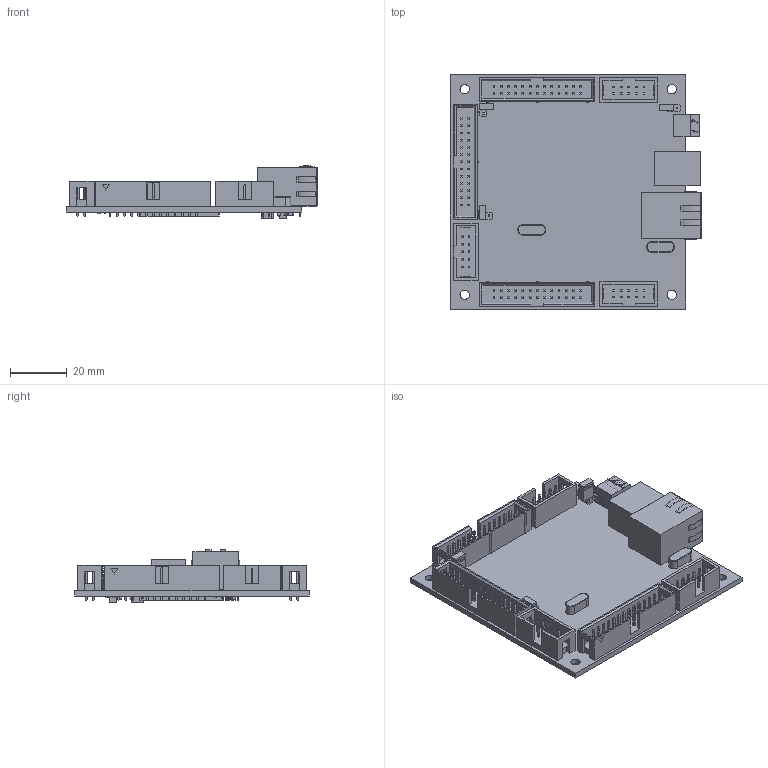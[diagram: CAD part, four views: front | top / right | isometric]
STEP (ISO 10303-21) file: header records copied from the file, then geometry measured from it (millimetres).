
FILE_DESCRIPTION(('STEP AP203'), '1');
FILE_NAME('PLCM-E3', '2022-09-30T08:52:06', (''), (''), 'ASCON STEP Converter 1.6', 'ASCON Math Kernel', '');
FILE_SCHEMA(('CONFIG_CONTROL_DESIGN'));
Length unit declared in the file: millimetre
Bounding box: 88.5 x 82.5 x 18.57 mm (x, y, z)
Volume: 27102.5 mm3; surface area: 27794.2 mm2
Topology: 1 solids, 1 shells, 2545 faces, 6118 edges, 3802 vertices
Faces by surface type: plane 2422, cylinder 119, torus 4
Full cylindrical faces by diameter (mm): 3.3 x4
Entity records: 92042 total; most frequent: CARTESIAN_POINT 12474, ORIENTED_EDGE 12228, DIRECTION 11436, EDGE_CURVE 6114, LINE 5876, VECTOR 5876, VERTEX_POINT 3802, EDGE_LOOP 2864
